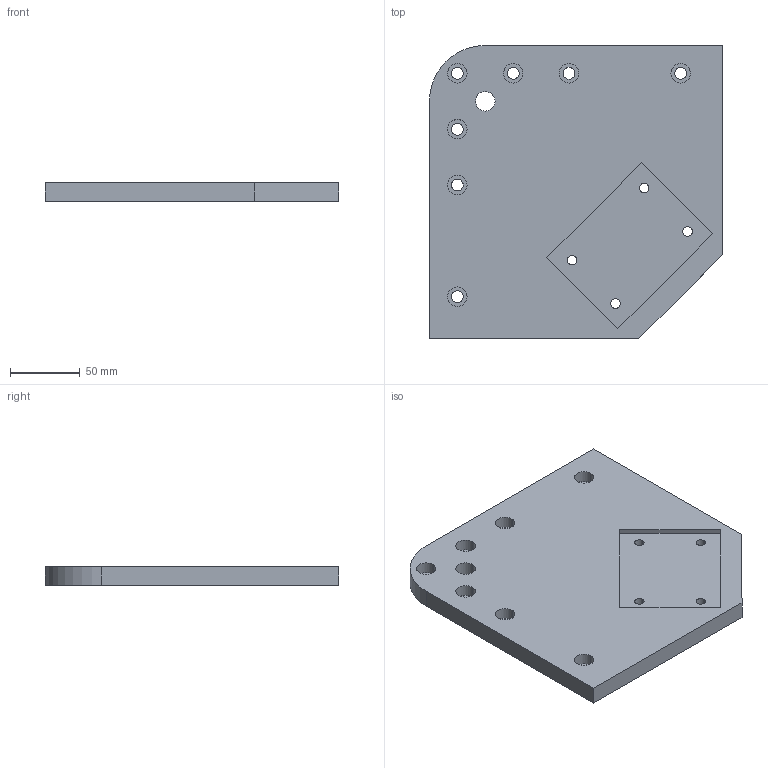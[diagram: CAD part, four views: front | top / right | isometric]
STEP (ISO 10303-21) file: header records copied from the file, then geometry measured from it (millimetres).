
FILE_DESCRIPTION (( 'STEP AP203' ), '1' );
FILE_NAME ('RPF08210.STEP', '2024-02-19T08:00:49', ( '' ), ( '' ), 'SwSTEP 2.0', 'SolidWorks 2022', '' );
FILE_SCHEMA (( 'CONFIG_CONTROL_DESIGN' ));
Length unit declared in the file: millimetre
Products named in the file (1): RPF08210
Bounding box: 210 x 210 x 13 mm (x, y, z)
Volume: 510256.4 mm3; surface area: 98653.9 mm2
Topology: 1 solids, 1 shells, 58 faces, 144 edges, 96 vertices
Faces by surface type: cylinder 39, plane 19
Entity records: 1891 total; most frequent: DIRECTION 340, CARTESIAN_POINT 299, ORIENTED_EDGE 288, EDGE_CURVE 144, AXIS2_PLACEMENT_3D 137, VERTEX_POINT 96, EDGE_LOOP 90, CIRCLE 78
